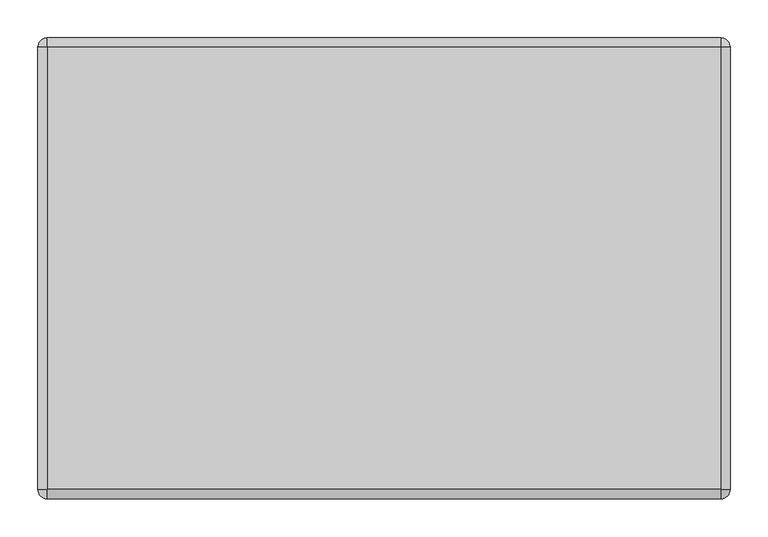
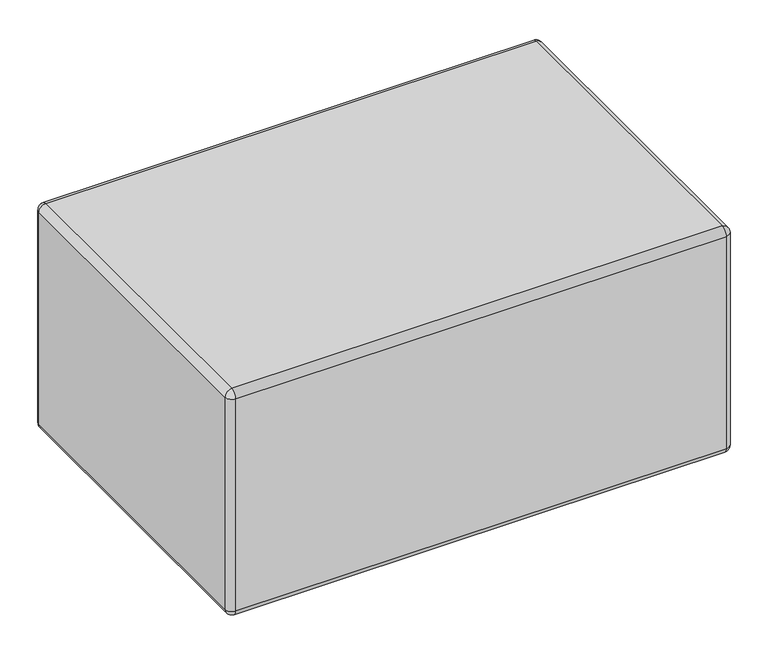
"""IFC4 building model written with IfcOpenShell, lengths in millimetres: furniture geometry."""

from ifc_helpers import new_model, si_unit, point, frame, origin, place, context, project, spatial, polyline, circle_curve, ellipse_curve, trimmed, source, transform, mapped, element, save
from ifc_brep_helpers import plane_surface, cylinder_surface, revolved_surface, advanced_brep


def furniture_9625b8b5(model_context):
    return source(origin(), model_context, "Body", "AdvancedBrep", [
        advanced_brep(
        [(-356.8604105, -212.725, 25.4), (-373.3895895, -212.725, 25.4), (-365.125, -212.725, 25.4), (-356.8604105, -212.725, 14.2843611), (-373.3895895, -212.725, 14.2843611), (-358.4623646, -212.725, 14.2843611), (-371.7876354, -212.725, 14.2843611), (-358.4623646, -212.725, 12.7064551), (-371.7876354, -212.725, 12.7064551), (-356.8609329, -212.725, 12.7064551), (-373.3890671, -212.725, 12.7064551), (-347.6758785, -212.725, 3.1950529), (-382.5741215, -212.725, 3.1950529), (-347.6758785, -212.725, 0.0), (-382.5741215, -212.725, 0.0), (-365.125, -212.725, 0.0)],
        [
            (0, 1, circle_curve(frame((-365.125, -212.725, 25.4), z_axis=(0.0, 0.0, 1.0), x_axis=(-1.0, 0.0, 0.0)), 8.2645895)),
            (1, 2),
            (2, 0),
            (1, 0, circle_curve(frame((-365.125, -212.725, 25.4), z_axis=(0.0, 0.0, 1.0), x_axis=(-1.0, 0.0, 0.0)), 8.2645895)),
            (3, 4, circle_curve(frame((-365.125, -212.725, 14.2843611), z_axis=(0.0, 0.0, 1.0), x_axis=(-1.0, 0.0, 0.0)), 8.2645895)),
            (4, 1),
            (0, 3),
            (4, 3, circle_curve(frame((-365.125, -212.725, 14.2843611), z_axis=(0.0, 0.0, 1.0), x_axis=(-1.0, 0.0, 0.0)), 8.2645895)),
            (5, 6, circle_curve(frame((-365.125, -212.725, 14.2843611), z_axis=(0.0, 0.0, 1.0), x_axis=(-1.0, 0.0, 0.0)), 6.6626354)),
            (6, 4),
            (3, 5),
            (6, 5, circle_curve(frame((-365.125, -212.725, 14.2843611), z_axis=(0.0, 0.0, 1.0), x_axis=(-1.0, 0.0, 0.0)), 6.6626354)),
            (7, 8, circle_curve(frame((-365.125, -212.725, 12.7064551), z_axis=(0.0, 0.0, 1.0), x_axis=(-1.0, 0.0, 0.0)), 6.6626354)),
            (8, 6),
            (5, 7),
            (8, 7, circle_curve(frame((-365.125, -212.725, 12.7064551), z_axis=(0.0, 0.0, 1.0), x_axis=(-1.0, 0.0, 0.0)), 6.6626354)),
            (9, 10, circle_curve(frame((-365.125, -212.725, 12.7064551), z_axis=(0.0, 0.0, 1.0), x_axis=(-1.0, 0.0, 0.0)), 8.2640671)),
            (10, 8),
            (7, 9),
            (10, 9, circle_curve(frame((-365.125, -212.725, 12.7064551), z_axis=(0.0, 0.0, 1.0), x_axis=(-1.0, 0.0, 0.0)), 8.2640671)),
            (11, 12, circle_curve(frame((-365.125, -212.725, 3.1950529), z_axis=(0.0, 0.0, 1.0), x_axis=(-1.0, 0.0, 0.0)), 17.4491215)),
            (12, 10),
            (9, 11),
            (12, 11, circle_curve(frame((-365.125, -212.725, 3.1950529), z_axis=(0.0, 0.0, 1.0), x_axis=(-1.0, 0.0, 0.0)), 17.4491215)),
            (13, 14, circle_curve(frame((-365.125, -212.725, 0.0), z_axis=(0.0, 0.0, 1.0), x_axis=(-1.0, 0.0, 0.0)), 17.4491215)),
            (14, 12),
            (11, 13),
            (14, 13, circle_curve(frame((-365.125, -212.725, 0.0), z_axis=(0.0, 0.0, 1.0), x_axis=(-1.0, 0.0, 0.0)), 17.4491215)),
            (15, 14),
            (13, 15),
        ],
        [
            plane_surface(frame((-365.125, -212.725, 25.4), z_axis=(0.0, 0.0, 1.0), x_axis=(-1.0, 0.0, 0.0))),
            cylinder_surface(frame((-365.125, -212.725, 33.820929), z_axis=(0.0, 0.0, -1.0), x_axis=(-1.0, 0.0, 0.0)), 8.2645895),
            plane_surface(frame((-365.125, -212.725, 14.2843611), z_axis=(0.0, 0.0, -1.0), x_axis=(-1.0, 0.0, 0.0))),
            cylinder_surface(frame((-365.125, -212.725, 33.820929), z_axis=(0.0, 0.0, -1.0), x_axis=(-1.0, 0.0, 0.0)), 6.6626354),
            plane_surface(frame((-365.125, -212.725, 12.7064551), z_axis=(0.0, 0.0, 1.0), x_axis=(-1.0, 0.0, 0.0))),
            revolved_surface(polyline([(-373.3890671, -212.725, 12.7064551), (-382.5741215, -212.725, 3.1950529)]), (-365.125, -212.725, 33.820929), (0.0, 0.0, -1.0)),
            cylinder_surface(frame((-365.125, -212.725, 33.820929), z_axis=(0.0, 0.0, -1.0), x_axis=(-1.0, 0.0, 0.0)), 17.4491215),
            plane_surface(frame((-365.125, -212.725, 0.0), z_axis=(0.0, 0.0, -1.0), x_axis=(-1.0, 0.0, 0.0))),
        ],
        [
            (0, [[1, 2, 3]]),
            (0, [[4, -3, -2]]),
            (1, [[5, 6, -1, 7]]),
            (1, [[8, -7, -4, -6]]),
            (2, [[9, 10, -5, 11]]),
            (2, [[12, -11, -8, -10]]),
            (3, [[13, 14, -9, 15]]),
            (3, [[16, -15, -12, -14]]),
            (4, [[17, 18, -13, 19]]),
            (4, [[20, -19, -16, -18]]),
            (5, [[21, 22, -17, 23]]),
            (5, [[24, -23, -20, -22]]),
            (6, [[25, 26, -21, 27]]),
            (6, [[28, -27, -24, -26]]),
            (7, [[29, -25, 30]]),
            (7, [[-30, -28, -29]]),
        ],
    ),
        advanced_brep(
        [(-457.2, 292.1, 444.5), (-457.2, -292.1, 444.5), (-444.5, -292.1, 457.2), (-444.5, 292.1, 457.2), (-457.2, 292.1, 38.1), (-457.2, -292.1, 38.1), (-444.5, 292.1, 25.4), (-444.5, -292.1, 25.4), (-444.5, -304.8, 444.5), (444.5, -304.8, 444.5), (444.5, -292.1, 457.2), (-444.5, -304.8, 38.1), (444.5, -304.8, 38.1), (444.5, -292.1, 25.4), (444.5, 292.1, 457.2), (444.5, 292.1, 25.4), (444.5, 304.8, 444.5), (-444.5, 304.8, 444.5), (444.5, 304.8, 38.1), (-444.5, 304.8, 38.1), (457.2, -292.1, 444.5), (457.2, 292.1, 444.5), (457.2, -292.1, 38.1), (457.2, 292.1, 38.1)],
        [
            (0, 1),
            (1, 2, circle_curve(frame((-444.5, -292.1, 444.5), z_axis=(0.0, 1.0, 0.0), x_axis=(-1.0, 0.0, 0.0)), 12.7)),
            (2, 3),
            (3, 0, circle_curve(frame((-444.5, 292.1, 444.5), z_axis=(0.0, -1.0, 0.0), x_axis=(-1.0, 0.0, 0.0)), 12.7)),
            (0, 4),
            (4, 5),
            (5, 1),
            (4, 6, circle_curve(frame((-444.5, 292.1, 38.1), z_axis=(0.0, -1.0, 0.0), x_axis=(-1.0, 0.0, 0.0)), 12.7)),
            (6, 7),
            (7, 5, circle_curve(frame((-444.5, -292.1, 38.1), z_axis=(0.0, 1.0, 0.0), x_axis=(-1.0, 0.0, 0.0)), 12.7)),
            (8, 9),
            (9, 10, circle_curve(frame((444.5, -292.1, 444.5), z_axis=(-1.0, 0.0, 0.0), x_axis=(0.0, 1.0, 0.0)), 12.7)),
            (10, 2),
            (2, 8, circle_curve(frame((-444.5, -292.1, 444.5), z_axis=(1.0, 0.0, 0.0), x_axis=(0.0, 1.0, 0.0)), 12.7)),
            (8, 11),
            (11, 12),
            (12, 9),
            (11, 7, circle_curve(frame((-444.5, -292.1, 38.1), z_axis=(1.0, 0.0, 0.0), x_axis=(0.0, 1.0, 0.0)), 12.7)),
            (7, 13),
            (13, 12, circle_curve(frame((444.5, -292.1, 38.1), z_axis=(-1.0, 0.0, 0.0), x_axis=(0.0, 1.0, 0.0)), 12.7)),
            (10, 14),
            (14, 3),
            (6, 15),
            (15, 13),
            (16, 17),
            (17, 3, circle_curve(frame((-444.5, 292.1, 444.5), z_axis=(1.0, 0.0, 0.0), x_axis=(0.0, 1.0, 0.0)), 12.7)),
            (14, 16, circle_curve(frame((444.5, 292.1, 444.5), z_axis=(-1.0, 0.0, 0.0), x_axis=(0.0, 1.0, 0.0)), 12.7)),
            (16, 18),
            (18, 19),
            (19, 17),
            (18, 15, circle_curve(frame((444.5, 292.1, 38.1), z_axis=(-1.0, 0.0, 0.0), x_axis=(0.0, 1.0, 0.0)), 12.7)),
            (6, 19, circle_curve(frame((-444.5, 292.1, 38.1), z_axis=(1.0, 0.0, 0.0), x_axis=(0.0, 1.0, 0.0)), 12.7)),
            (20, 21),
            (21, 14, circle_curve(frame((444.5, 292.1, 444.5), z_axis=(0.0, -1.0, 0.0), x_axis=(-1.0, 0.0, 0.0)), 12.7)),
            (10, 20, circle_curve(frame((444.5, -292.1, 444.5), z_axis=(0.0, 1.0, 0.0), x_axis=(-1.0, 0.0, 0.0)), 12.7)),
            (20, 22),
            (22, 23),
            (23, 21),
            (22, 13, circle_curve(frame((444.5, -292.1, 38.1), z_axis=(0.0, 1.0, 0.0), x_axis=(-1.0, 0.0, 0.0)), 12.7)),
            (15, 23, circle_curve(frame((444.5, 292.1, 38.1), z_axis=(0.0, -1.0, 0.0), x_axis=(-1.0, 0.0, 0.0)), 12.7)),
            (19, 4, circle_curve(frame((-444.5, 292.1, 38.1), z_axis=(0.0, 0.0, 1.0), x_axis=(-1.0, 0.0, 0.0)), 12.7)),
            (0, 17, circle_curve(frame((-444.5, 292.1, 444.5), z_axis=(0.0, 0.0, -1.0), x_axis=(-1.0, 0.0, 0.0)), 12.7)),
            (8, 1, circle_curve(frame((-444.5, -292.1, 444.5), z_axis=(0.0, 0.0, -1.0), x_axis=(-1.0, 0.0, 0.0)), 12.7)),
            (5, 11, circle_curve(frame((-444.5, -292.1, 38.1), z_axis=(0.0, 0.0, 1.0), x_axis=(-1.0, 0.0, 0.0)), 12.7)),
            (12, 22, circle_curve(frame((444.5, -292.1, 38.1), z_axis=(0.0, 0.0, 1.0), x_axis=(1.0, 0.0, 0.0)), 12.7)),
            (20, 9, circle_curve(frame((444.5, -292.1, 444.5), z_axis=(0.0, 0.0, -1.0), x_axis=(1.0, 0.0, 0.0)), 12.7)),
            (16, 21, circle_curve(frame((444.5, 292.1, 444.5), z_axis=(0.0, 0.0, -1.0), x_axis=(1.0, 0.0, 0.0)), 12.7)),
            (23, 18, circle_curve(frame((444.5, 292.1, 38.1), z_axis=(0.0, 0.0, 1.0), x_axis=(1.0, 0.0, 0.0)), 12.7)),
        ],
        [
            cylinder_surface(frame((-444.5, -292.1, 444.5), z_axis=(0.0, -1.0, 0.0), x_axis=(-1.0, 0.0, 0.0)), 12.7),
            plane_surface(frame((-457.2, -292.1, 444.5), z_axis=(-1.0, 0.0, 0.0), x_axis=(0.0, 1.0, 0.0))),
            cylinder_surface(frame((-444.5, -292.1, 38.1), z_axis=(0.0, -1.0, 0.0), x_axis=(-1.0, 0.0, 0.0)), 12.7),
            cylinder_surface(frame((-444.5, -292.1, 444.5), z_axis=(-1.0, 0.0, 0.0), x_axis=(0.0, 1.0, 0.0)), 12.7),
            plane_surface(frame((-444.5, -304.8, 38.1), z_axis=(0.0, -1.0, 0.0), x_axis=(1.0, 0.0, 0.0))),
            cylinder_surface(frame((-444.5, -292.1, 38.1), z_axis=(-1.0, 0.0, 0.0), x_axis=(0.0, 1.0, 0.0)), 12.7),
            plane_surface(frame((-444.5, 292.1, 457.2), z_axis=(0.0, 0.0, 1.0), x_axis=(-1.0, 0.0, 0.0))),
            plane_surface(frame((-444.5, 292.1, 25.4), z_axis=(0.0, 0.0, -1.0), x_axis=(1.0, 0.0, 0.0))),
            cylinder_surface(frame((-444.5, 292.1, 444.5), z_axis=(-1.0, 0.0, 0.0), x_axis=(0.0, 1.0, 0.0)), 12.7),
            plane_surface(frame((-444.5, 304.8, 444.5), z_axis=(0.0, 1.0, 0.0), x_axis=(1.0, 0.0, 0.0))),
            cylinder_surface(frame((-444.5, 292.1, 38.1), z_axis=(-1.0, 0.0, 0.0), x_axis=(0.0, 1.0, 0.0)), 12.7),
            cylinder_surface(frame((444.5, -292.1, 444.5), z_axis=(0.0, -1.0, 0.0), x_axis=(-1.0, 0.0, 0.0)), 12.7),
            plane_surface(frame((457.2, -292.1, 38.1), z_axis=(1.0, 0.0, 0.0), x_axis=(0.0, 1.0, 0.0))),
            cylinder_surface(frame((444.5, -292.1, 38.1), z_axis=(0.0, -1.0, 0.0), x_axis=(-1.0, 0.0, 0.0)), 12.7),
            cylinder_surface(frame((-444.5, 292.1, 457.2), z_axis=(0.0, 0.0, 1.0), x_axis=(-1.0, 0.0, 0.0)), 12.7),
            revolved_surface(trimmed(ellipse_curve(frame((-444.5, 292.1, 38.1), z_axis=(0.0, 1.0, 0.0), x_axis=(0.0, 0.0, 1.0)), 12.7, 12.7), [point((-444.5, 292.1, 25.4))], [point((-457.2, 292.1, 38.1))], True, "CARTESIAN"), (-444.5, 292.1, 457.2), (0.0, 0.0, 1.0)),
            revolved_surface(trimmed(ellipse_curve(frame((-444.5, 292.1, 444.5), z_axis=(0.0, 1.0, 0.0), x_axis=(0.0, 0.0, 1.0)), 12.7, 12.7), [point((-457.2, 292.1, 444.5))], [point((-444.5, 292.1, 457.2))], True, "CARTESIAN"), (-444.5, 292.1, 457.2), (0.0, 0.0, 1.0)),
            cylinder_surface(frame((-444.5, -292.1, 306.9189642), z_axis=(0.0, 0.0, -1.0), x_axis=(-1.0, 0.0, 0.0)), 12.7),
            revolved_surface(trimmed(ellipse_curve(frame((-444.5, -292.1, 444.5), z_axis=(0.0, -1.0, 0.0), x_axis=(1.0, 0.0, 0.0)), 12.7, 12.7), [point((-444.5, -292.1, 457.2))], [point((-457.2, -292.1, 444.5))], True, "CARTESIAN"), (-444.5, -292.1, 306.9189642), (0.0, 0.0, -1.0)),
            revolved_surface(trimmed(ellipse_curve(frame((-444.5, -292.1, 38.1), z_axis=(0.0, -1.0, 0.0), x_axis=(1.0, 0.0, 0.0)), 12.7, 12.7), [point((-457.2, -292.1, 38.1))], [point((-444.5, -292.1, 25.4))], True, "CARTESIAN"), (-444.5, -292.1, 306.9189642), (0.0, 0.0, -1.0)),
            cylinder_surface(frame((444.5, -292.1, 457.2), z_axis=(0.0, 0.0, 1.0), x_axis=(1.0, 0.0, 0.0)), 12.7),
            revolved_surface(trimmed(ellipse_curve(frame((444.5, -292.1, 38.1), z_axis=(0.0, -1.0, 0.0), x_axis=(1.0, 0.0, 0.0)), 12.7, 12.7), [point((444.5, -292.1, 25.4))], [point((457.2, -292.1, 38.1))], True, "CARTESIAN"), (444.5, -292.1, 457.2), (0.0, 0.0, 1.0)),
            revolved_surface(trimmed(ellipse_curve(frame((444.5, -292.1, 444.5), z_axis=(0.0, -1.0, 0.0), x_axis=(1.0, 0.0, 0.0)), 12.7, 12.7), [point((457.2, -292.1, 444.5))], [point((444.5, -292.1, 457.2))], True, "CARTESIAN"), (444.5, -292.1, 457.2), (0.0, 0.0, 1.0)),
            cylinder_surface(frame((444.5, 292.1, 306.9189642), z_axis=(0.0, 0.0, -1.0), x_axis=(1.0, 0.0, 0.0)), 12.7),
            revolved_surface(trimmed(ellipse_curve(frame((444.5, 292.1, 444.5), z_axis=(0.0, 1.0, 0.0), x_axis=(0.0, 0.0, 1.0)), 12.7, 12.7), [point((444.5, 292.1, 457.2))], [point((457.2, 292.1, 444.5))], True, "CARTESIAN"), (444.5, 292.1, 306.9189642), (0.0, 0.0, -1.0)),
            revolved_surface(trimmed(ellipse_curve(frame((444.5, 292.1, 38.1), z_axis=(0.0, 1.0, 0.0), x_axis=(0.0, 0.0, 1.0)), 12.7, 12.7), [point((457.2, 292.1, 38.1))], [point((444.5, 292.1, 25.4))], True, "CARTESIAN"), (444.5, 292.1, 306.9189642), (0.0, 0.0, -1.0)),
        ],
        [
            (0, [[1, 2, 3, 4]]),
            (1, [[-1, 5, 6, 7]]),
            (2, [[-6, 8, 9, 10]]),
            (3, [[11, 12, 13, 14]]),
            (4, [[-11, 15, 16, 17]]),
            (5, [[-16, 18, 19, 20]]),
            (6, [[-3, -13, 21, 22]]),
            (7, [[-9, 23, 24, -19]]),
            (8, [[25, 26, -22, 27]]),
            (9, [[-25, 28, 29, 30]]),
            (10, [[-29, 31, -23, 32]]),
            (11, [[33, 34, -21, 35]]),
            (12, [[-33, 36, 37, 38]]),
            (13, [[-37, 39, -24, 40]]),
            (14, [[41, -5, 42, -30]]),
            (15, [[-41, -32, -8]]),
            (16, [[-42, -4, -26]]),
            (17, [[43, -7, 44, -15]]),
            (18, [[-43, -14, -2]]),
            (19, [[-44, -10, -18]]),
            (20, [[45, -36, 46, -17]]),
            (21, [[-45, -20, -39]]),
            (22, [[-46, -35, -12]]),
            (23, [[47, -38, 48, -28]]),
            (24, [[-47, -27, -34]]),
            (25, [[-48, -40, -31]]),
        ],
    ),
    ])


if __name__ == "__main__":
    model = new_model("IFC4")
    model_context = context("Model", 3, world=origin())
    ifc_project = project(units=[si_unit("LENGTHUNIT", "METRE", prefix="MILLI")], contexts=[model_context])
    site = spatial("IfcSite", under=ifc_project)
    building = spatial("IfcBuilding", under=site)
    placement = place(None, origin())
    furniture_shape = furniture_9625b8b5(model_context)
    element("IfcFurniture", 1, at=placement, inside=building, context=model_context, shape_type="MappedRepresentation", body=[
        mapped(furniture_shape, transform((0.0, 0.0, 0.0), x_axis=(1.0, 0.0, 0.0), y_axis=(0.0, 1.0, 0.0), z_axis=(0.0, 0.0, 1.0))),
    ])
    save(model, "model.ifc")
